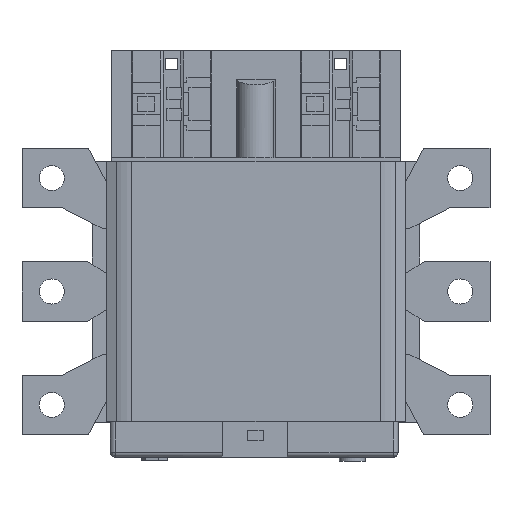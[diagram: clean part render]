
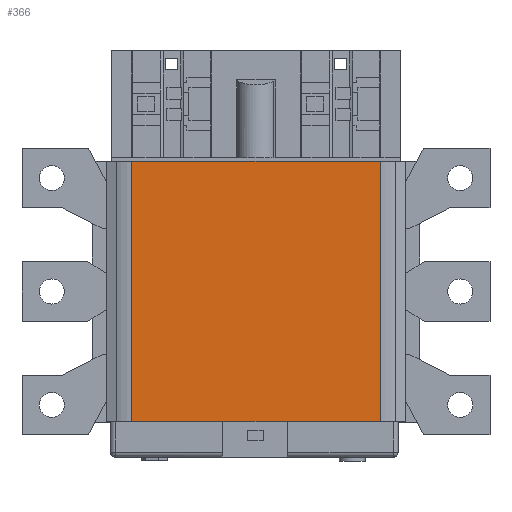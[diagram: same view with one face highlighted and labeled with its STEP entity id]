
A CAD part, top view. The second image highlights one B-rep face of the part: STEP entity #366.
In plain terms, the highlighted planar face has unit normal (0, 0, 1).
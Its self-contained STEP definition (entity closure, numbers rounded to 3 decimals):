
#366=ADVANCED_FACE('',(#1474),#971,.F.);
#971=PLANE('',#12020);
#1474=FACE_OUTER_BOUND('',#2055,.T.);
#2055=EDGE_LOOP('',(#3183,#3184,#3185,#3186));
#3183=ORIENTED_EDGE('',*,*,#7585,.F.);
#3184=ORIENTED_EDGE('',*,*,#7485,.F.);
#3185=ORIENTED_EDGE('',*,*,#7586,.F.);
#3186=ORIENTED_EDGE('',*,*,#7375,.F.);
#6261=VERTEX_POINT('',#15964);
#6262=VERTEX_POINT('',#15966);
#6351=VERTEX_POINT('',#16175);
#6352=VERTEX_POINT('',#16177);
#7375=EDGE_CURVE('',#6261,#6262,#9044,.T.);
#7485=EDGE_CURVE('',#6351,#6352,#9138,.T.);
#7585=EDGE_CURVE('',#6352,#6261,#9223,.T.);
#7586=EDGE_CURVE('',#6262,#6351,#9224,.T.);
#9044=LINE('',#15965,#10530);
#9138=LINE('',#16176,#10624);
#9223=LINE('',#16376,#10709);
#9224=LINE('',#16377,#10710);
#10530=VECTOR('',#12842,1.);
#10624=VECTOR('',#12990,1.);
#10709=VECTOR('',#13139,1.);
#10710=VECTOR('',#13140,1.);
#12020=AXIS2_PLACEMENT_3D('',#16378,#13141,#13142);
#12842=DIRECTION('',(-1.,0.,0.));
#12990=DIRECTION('',(1.,0.,0.));
#13139=DIRECTION('',(0.,-1.,0.));
#13140=DIRECTION('',(0.,1.,0.));
#13141=DIRECTION('',(0.,0.,-1.));
#13142=DIRECTION('',(-1.,0.,0.));
#15964=CARTESIAN_POINT('',(51.951,-54.5,0.243));
#15965=CARTESIAN_POINT('',(0.,-54.5,0.243));
#15966=CARTESIAN_POINT('',(-51.951,-54.5,0.243));
#16175=CARTESIAN_POINT('',(-51.951,54.5,0.243));
#16176=CARTESIAN_POINT('',(0.,54.5,0.243));
#16177=CARTESIAN_POINT('',(51.951,54.5,0.243));
#16376=CARTESIAN_POINT('',(51.951,-54.5,0.243));
#16377=CARTESIAN_POINT('',(-51.951,-54.5,0.243));
#16378=CARTESIAN_POINT('',(0.,-54.5,0.243));
